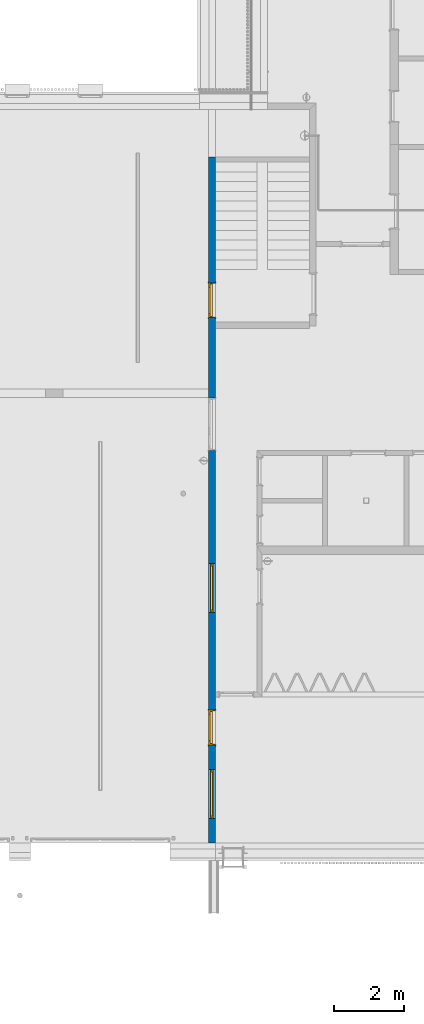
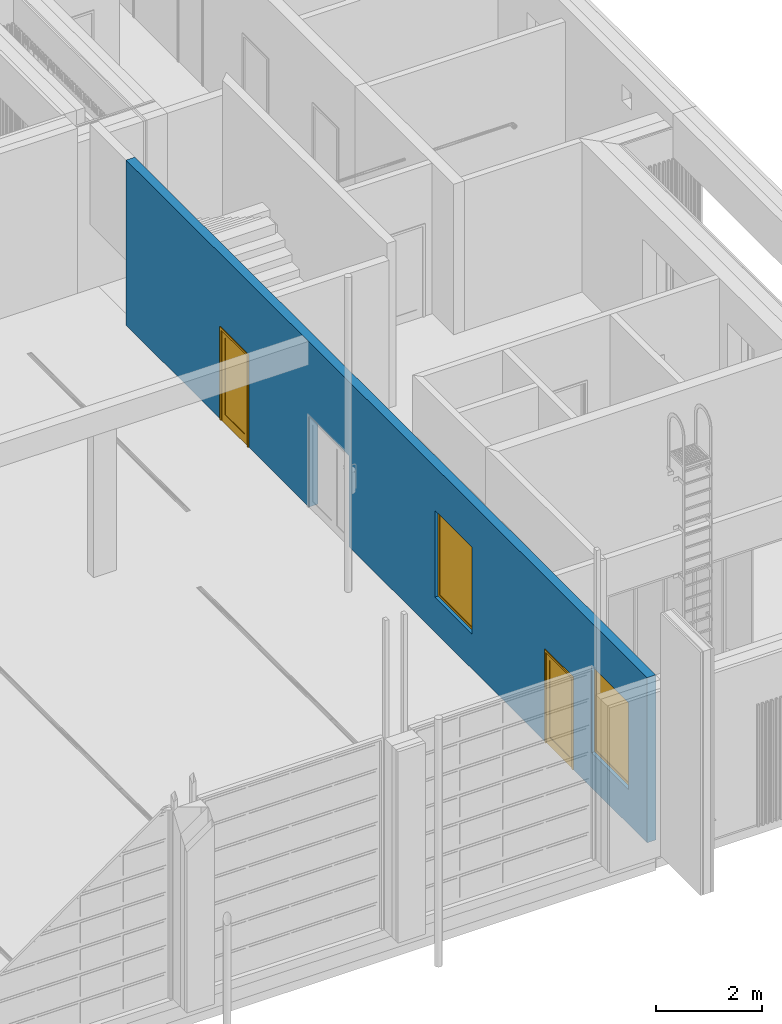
# One storey, part 12 of 112: 2 doors, 2 windows, 1 wall, 5 openings.
"""IFC2X3 building model written with IfcOpenShell, lengths in millimetres."""

from ifc_helpers import new_model, entity, si_unit, converted_unit, derived_unit, money_unit, direction, frame, origin_with_axes, origin_2d_with_axis, place, context, subcontext, project, spatial, polyline, rectangle, outline, extrude, open_shell, faceted_brep, surface_model, source, transform, mapped, material, layer, layer_set, layer_usage, type_object, element, fill, save


model = new_model("IFC2X3")

# Units and contexts
model_context = context("Model", 3, precision=0.01, world=origin_with_axes(), true_north=direction((0.0, 1.0)))
body_context = subcontext(model_context, "Body", "Model", "MODEL_VIEW")
ifc_project = project(units=[si_unit("LENGTHUNIT", "METRE", prefix="MILLI"), si_unit("AREAUNIT", "SQUARE_METRE"), si_unit("VOLUMEUNIT", "CUBIC_METRE"), converted_unit("PLANEANGLEUNIT", "DEGREE", entity("IfcPlaneAngleMeasure", 0.0174532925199), si_unit("PLANEANGLEUNIT", "RADIAN"), dimensions=[0, 0, 0, 0, 0, 0, 0]), si_unit("SOLIDANGLEUNIT", "STERADIAN"), money_unit("EUR"), converted_unit("TIMEUNIT", "Year", entity("IfcTimeMeasure", 31556926.0), si_unit("TIMEUNIT", "SECOND"), dimensions=[0, 0, 1, 0, 0, 0, 0]), si_unit("MASSUNIT", "GRAM", prefix="KILO"), si_unit("THERMODYNAMICTEMPERATUREUNIT", "DEGREE_CELSIUS"), si_unit("LUMINOUSINTENSITYUNIT", "LUMEN"), si_unit("ENERGYUNIT", "JOULE", prefix="MEGA"), derived_unit("THERMALCONDUCTANCEUNIT", [(si_unit("POWERUNIT", "WATT"), 1), (si_unit("LENGTHUNIT", "METRE"), -1), (si_unit("THERMODYNAMICTEMPERATUREUNIT", "KELVIN"), -1)]), derived_unit("SPECIFICHEATCAPACITYUNIT", [(si_unit("ENERGYUNIT", "JOULE"), 1), (si_unit("MASSUNIT", "GRAM", prefix="KILO"), -1), (si_unit("THERMODYNAMICTEMPERATUREUNIT", "KELVIN"), -1)]), derived_unit("MASSDENSITYUNIT", [(si_unit("MASSUNIT", "GRAM", prefix="KILO"), 1), (si_unit("VOLUMEUNIT", "CUBIC_METRE"), -1)])], contexts=[model_context])

# Site, building, storey
site_placement = place(None, origin_with_axes())
site = spatial("IfcSite", under=ifc_project, at=site_placement, Name="Politse- ja Piirivalveameti ning Päästeameti ühishoone", CompositionType="ELEMENT")
building_placement = place(site_placement, origin_with_axes())
building = spatial("IfcBuilding", under=site, at=building_placement, Name="Politse- ja Piirivalveameti ning Päästeameti ühishoone", CompositionType="ELEMENT")
storey_placement = place(building_placement, origin_with_axes())
storey = spatial("IfcBuildingStorey", under=building, at=storey_placement, Name="Esimene korrus", CompositionType="ELEMENT", Elevation=0.0)

# Wall, openings, windows, doors
ifc_material = material(Name="KON-05_Betoon Plokk - Konstuktsioon")
ifc_layer = layer(ifc_material, 190.0, ventilated="UNKNOWN")
ifc_layer_set = layer_set([ifc_layer], Name="SS-03_Sisesein 190")
ifc_layer_usage = layer_usage(ifc_layer_set, "AXIS2", "POSITIVE", -190.0)
wall_type = type_object("IfcWallType", Name="SS-03_Sisesein 190 190", PredefinedType="NOTDEFINED")
wall_placement = place(storey_placement, frame((60160.5519118, 19639.9520832, 0.0), z_axis=(0.0, 0.0, 1.0), x_axis=(0.0, -1.0, 0.0)))
wall = element("IfcWallStandardCase", 1, at=wall_placement, inside=storey, type_object=wall_type, material=ifc_layer_usage, Name="SS-03", context=body_context, shape_type="SweptSolid", body=[
    extrude(outline(polyline([(0.0, -190.0), (19639.9520832, -190.0), (19639.9520832, 0.0), (0.0, 0.0), (0.0, -190.0)])), origin_with_axes(), (0.0, 0.0, 1.0), 3800.0),
])
opening_1_placement = place(wall_placement, frame((12339.9387915, 0.0, 800.0), z_axis=(0.0, 0.0, 1.0), x_axis=(1.0, 0.0, 0.0)))
opening_1 = element("IfcOpeningElement", 2, at=opening_1_placement, cuts=wall, Name="TA-02", context=body_context, shape_type="SweptSolid", body=[
    extrude(rectangle(XDim=1400.0, YDim=2000.0, at=origin_2d_with_axis()), frame((0.0, -110.0, 1000.0), z_axis=(0.0, -1.0, 0.0), x_axis=(-1.0, 0.0, 0.0)), (0.0, 0.0, -1.0), 300.0),
    extrude(rectangle(XDim=1400.0, YDim=2000.0, at=origin_2d_with_axis()), frame((0.0, -110.0, 1000.0), z_axis=(0.0, 1.0, 0.0), x_axis=(-1.0, 0.0, 0.0)), (0.0, 0.0, -1.0), 270.0),
])
opening_2_placement = place(wall_placement, frame((18239.9387915, 0.0, 800.0), z_axis=(0.0, 0.0, 1.0), x_axis=(1.0, 0.0, 0.0)))
opening_2 = element("IfcOpeningElement", 3, at=opening_2_placement, cuts=wall, Name="TA-02", context=body_context, shape_type="SweptSolid", body=[
    extrude(rectangle(XDim=1400.0, YDim=2000.0, at=origin_2d_with_axis()), frame((0.0, -110.0, 1000.0), z_axis=(0.0, -1.0, 0.0), x_axis=(-1.0, 0.0, 0.0)), (0.0, 0.0, -1.0), 300.0),
    extrude(rectangle(XDim=1400.0, YDim=2000.0, at=origin_2d_with_axis()), frame((0.0, -110.0, 1000.0), z_axis=(0.0, 1.0, 0.0), x_axis=(-1.0, 0.0, 0.0)), (0.0, 0.0, -1.0), 270.0),
])
opening_3_placement = place(wall_placement, frame((7649.97516111, 0.0, 0.0), z_axis=(0.0, 0.0, 1.0), x_axis=(1.0, 0.0, 0.0)))
element("IfcOpeningElement", 4, at=opening_3_placement, cuts=wall, Name="TU-01-6", context=body_context, shape_type="SweptSolid", body=[
    extrude(rectangle(XDim=1500.0, YDim=2100.0, at=origin_2d_with_axis()), frame((0.0, 190.0, 1050.0), z_axis=(0.0, 1.0, 0.0), x_axis=(1.0, 0.0, 0.0)), (0.0, 0.0, -1.0), 570.0),
    extrude(rectangle(XDim=1574.0, YDim=2137.0, at=origin_2d_with_axis()), frame((0.0, 0.0, 1068.5), z_axis=(0.0, 1.0, 0.0), x_axis=(1.0, 0.0, 0.0)), (0.0, 0.0, 1.0), 190.0),
    extrude(rectangle(XDim=1574.0, YDim=2137.0, at=origin_2d_with_axis()), frame((0.0, -190.0, 1068.5), z_axis=(0.0, -1.0, 0.0), x_axis=(1.0, 0.0, 0.0)), (0.0, 0.0, 1.0), 190.0),
])
opening_4_placement = place(wall_placement, frame((16339.9387915, 0.0, 0.0), z_axis=(0.0, 0.0, 1.0), x_axis=(1.0, 0.0, 0.0)))
opening_4 = element("IfcOpeningElement", 5, at=opening_4_placement, cuts=wall, Name="TU-01-7", context=body_context, shape_type="SweptSolid", body=[
    extrude(rectangle(XDim=1000.0, YDim=2100.0, at=origin_2d_with_axis()), frame((0.0, 190.0, 1050.0), z_axis=(0.0, -1.0, 0.0), x_axis=(-1.0, 0.0, 0.0)), (0.0, 0.0, 1.0), 570.0),
    extrude(rectangle(XDim=1074.0, YDim=2137.0, at=origin_2d_with_axis()), frame((0.0, 0.0, 1068.5), z_axis=(0.0, -1.0, 0.0), x_axis=(-1.0, 0.0, 0.0)), (0.0, 0.0, -1.0), 190.0),
    extrude(rectangle(XDim=1074.0, YDim=2137.0, at=origin_2d_with_axis()), frame((0.0, -190.0, 1068.5), z_axis=(0.0, 1.0, 0.0), x_axis=(-1.0, 0.0, 0.0)), (0.0, 0.0, -1.0), 190.0),
])
opening_5_placement = place(wall_placement, frame((4099.64313689, 0.0, 0.0), z_axis=(0.0, 0.0, 1.0), x_axis=(1.0, 0.0, 0.0)))
opening_5 = element("IfcOpeningElement", 6, at=opening_5_placement, cuts=wall, Name="TU-01-7", context=body_context, shape_type="SweptSolid", body=[
    extrude(rectangle(XDim=1000.0, YDim=2100.0, at=origin_2d_with_axis()), frame((0.0, 190.0, 1050.0), z_axis=(0.0, -1.0, 0.0), x_axis=(-1.0, 0.0, 0.0)), (0.0, 0.0, 1.0), 570.0),
    extrude(rectangle(XDim=1074.0, YDim=2137.0, at=origin_2d_with_axis()), frame((0.0, 0.0, 1068.5), z_axis=(0.0, -1.0, 0.0), x_axis=(-1.0, 0.0, 0.0)), (0.0, 0.0, -1.0), 190.0),
    extrude(rectangle(XDim=1074.0, YDim=2137.0, at=origin_2d_with_axis()), frame((0.0, -190.0, 1068.5), z_axis=(0.0, 1.0, 0.0), x_axis=(-1.0, 0.0, 0.0)), (0.0, 0.0, -1.0), 190.0),
])
window_style = type_object("IfcWindowStyle", Name="Window 23", ConstructionType="NOTDEFINED", OperationType="SINGLE_PANEL", ParameterTakesPrecedence=False, Sizeable=False)
shared_shape_1 = source(origin_with_axes(), body_context, "Body", "SurfaceModel", [
    faceted_brep([(-675.0, 0.0, 1950.0), (-700.0, 0.0, 1950.0), (-700.0, -50.0, 1950.0), (-650.0, -50.0, 1950.0), (-650.0, -25.0, 1950.0), (-675.0, -25.0, 1950.0), (-675.0, 0.0, 50.0), (-700.0, 0.0, 50.0), (-700.0, -50.0, 50.0), (-650.0, -50.0, 50.0), (-650.0, -25.0, 50.0), (-675.0, -25.0, 50.0)], [[[0, 1, 2, 3, 4, 5]], [[6, 7, 1, 0]], [[1, 7, 8, 2]], [[2, 8, 9, 3]], [[4, 3, 9, 10]], [[10, 11, 5, 4]], [[5, 11, 6, 0]], [[11, 10, 9, 8, 7, 6]]]),
    faceted_brep([(650.0, -25.0, 1950.0), (650.0, -50.0, 1950.0), (700.0, -50.0, 1950.0), (700.0, 0.0, 1950.0), (675.0, 0.0, 1950.0), (675.0, -25.0, 1950.0), (650.0, -25.0, 50.0), (650.0, -50.0, 50.0), (700.0, -50.0, 50.0), (700.0, 0.0, 50.0), (675.0, 0.0, 50.0), (675.0, -25.0, 50.0)], [[[0, 1, 2, 3, 4, 5]], [[6, 7, 1, 0]], [[8, 2, 1, 7]], [[9, 3, 2, 8]], [[4, 3, 9, 10]], [[10, 11, 5, 4]], [[5, 11, 6, 0]], [[11, 10, 9, 8, 7, 6]]]),
    faceted_brep([(650.0, -25.0, 50.0), (650.0, -50.0, 50.0), (700.0, -50.0, 50.0), (700.0, 0.0, 50.0), (675.0, 0.0, 50.0), (675.0, -25.0, 50.0), (-650.0, -25.0, 50.0), (-650.0, -50.0, 50.0), (-700.0, -50.0, 50.0), (-700.0, -50.0, 0.0), (700.0, -50.0, 0.0), (700.0, 0.0, 0.0), (-675.0, 0.0, 25.0), (675.0, 0.0, 25.0), (-700.0, 0.0, 0.0), (-700.0, 0.0, 50.0), (-675.0, 0.0, 50.0), (675.0, -25.0, 25.0), (-675.0, -25.0, 25.0), (-675.0, -25.0, 50.0)], [[[0, 1, 2, 3, 4, 5]], [[6, 7, 1, 0]], [[8, 9, 10, 2, 1, 7]], [[11, 3, 2, 10]], [[12, 13, 4, 3, 11, 14, 15, 16]], [[13, 17, 5, 4]], [[5, 17, 18, 19, 6, 0]], [[19, 16, 15, 8, 7, 6]], [[15, 14, 9, 8]], [[14, 11, 10, 9]], [[12, 18, 17, 13]], [[19, 18, 12, 16]]]),
    faceted_brep([(-675.0, 0.0, 1950.0), (-700.0, 0.0, 1950.0), (-700.0, 0.0, 2000.0), (700.0, 0.0, 2000.0), (700.0, 0.0, 1950.0), (675.0, 0.0, 1950.0), (675.0, 0.0, 1975.0), (-675.0, 0.0, 1975.0), (-675.0, -25.0, 1950.0), (-650.0, -25.0, 1950.0), (-650.0, -50.0, 1950.0), (-700.0, -50.0, 1950.0), (-700.0, -50.0, 2000.0), (700.0, -50.0, 2000.0), (700.0, -50.0, 1950.0), (675.0, -25.0, 1950.0), (650.0, -50.0, 1950.0), (650.0, -25.0, 1950.0), (675.0, -25.0, 1975.0), (-675.0, -25.0, 1975.0)], [[[0, 1, 2, 3, 4, 5, 6, 7]], [[8, 9, 10, 11, 1, 0]], [[2, 1, 11, 12]], [[3, 2, 12, 13]], [[4, 3, 13, 14]], [[15, 5, 4, 14, 16, 17]], [[5, 15, 18, 6]], [[6, 18, 19, 7]], [[7, 19, 8, 0]], [[17, 9, 8, 19, 18, 15]], [[17, 16, 10, 9]], [[14, 13, 12, 11, 10, 16]]]),
    faceted_brep([(-625.0, -25.0, 1925.0), (-625.0, 25.0, 1925.0), (-675.0, 25.0, 1925.0), (-675.0, -25.0, 1925.0), (-625.0, -25.0, 75.0), (-625.0, 25.0, 75.0), (-675.0, 25.0, 75.0), (-675.0, -25.0, 75.0)], [[[0, 1, 2, 3]], [[4, 5, 1, 0]], [[1, 5, 6, 2]], [[3, 2, 6, 7]], [[0, 3, 7, 4]], [[7, 6, 5, 4]]]),
    faceted_brep([(625.0, -25.0, 75.0), (625.0, 25.0, 75.0), (675.0, 25.0, 75.0), (675.0, -25.0, 75.0), (625.0, -25.0, 1925.0), (625.0, 25.0, 1925.0), (675.0, 25.0, 1925.0), (675.0, -25.0, 1925.0)], [[[0, 1, 2, 3]], [[4, 5, 1, 0]], [[1, 5, 6, 2]], [[3, 2, 6, 7]], [[0, 3, 7, 4]], [[7, 6, 5, 4]]]),
    faceted_brep([(675.0, -25.0, 25.0), (675.0, 25.0, 25.0), (675.0, 25.0, 75.0), (675.0, -25.0, 75.0), (-675.0, -25.0, 25.0), (-675.0, 25.0, 25.0), (-675.0, 25.0, 75.0), (-625.0, 25.0, 75.0), (625.0, 25.0, 75.0), (625.0, -25.0, 75.0), (-625.0, -25.0, 75.0), (-675.0, -25.0, 75.0)], [[[0, 1, 2, 3]], [[4, 5, 1, 0]], [[1, 5, 6, 7, 8, 2]], [[3, 2, 8, 9]], [[0, 3, 9, 10, 11, 4]], [[11, 6, 5, 4]], [[10, 7, 6, 11]], [[9, 8, 7, 10]]]),
    faceted_brep([(-675.0, -25.0, 1975.0), (-675.0, 25.0, 1975.0), (-675.0, 25.0, 1925.0), (-675.0, -25.0, 1925.0), (675.0, -25.0, 1975.0), (675.0, 25.0, 1975.0), (675.0, 25.0, 1925.0), (625.0, 25.0, 1925.0), (-625.0, 25.0, 1925.0), (-625.0, -25.0, 1925.0), (625.0, -25.0, 1925.0), (675.0, -25.0, 1925.0)], [[[0, 1, 2, 3]], [[4, 5, 1, 0]], [[1, 5, 6, 7, 8, 2]], [[3, 2, 8, 9]], [[0, 3, 9, 10, 11, 4]], [[11, 6, 5, 4]], [[10, 7, 6, 11]], [[9, 8, 7, 10]]]),
    surface_model("IfcShellBasedSurfaceModel", [(-625.0, -10.0, 75.0), (625.0, -10.0, 75.0), (625.0, -10.0, 1925.0), (-625.0, -10.0, 1925.0)], [open_shell([[[0, 1, 2, 3]]])]),
    surface_model("IfcShellBasedSurfaceModel", [(-625.0, 10.0, 75.0), (-625.0, 10.0, 1925.0), (625.0, 10.0, 1925.0), (625.0, 10.0, 75.0)], [open_shell([[[0, 1, 2, 3]]])]),
])
window_1_placement = place(opening_1_placement, frame((700.0, 0.0, 0.0), z_axis=(0.0, 0.0, 1.0), x_axis=(-1.0, 0.0, 0.0)))
window_1 = element("IfcWindow", 7, at=window_1_placement, inside=storey, type_object=window_style, Name="TA-02", ObjectType="WINDOW", OverallHeight=2000.0, OverallWidth=1400.0, context=body_context, shape_type="MappedRepresentation", body=[
    mapped(shared_shape_1, transform((700.0, 110.0, 0.0))),
])
fill(opening_1, window_1)
window_2_placement = place(opening_2_placement, frame((700.0, 0.0, 0.0), z_axis=(0.0, 0.0, 1.0), x_axis=(-1.0, 0.0, 0.0)))
window_2 = element("IfcWindow", 8, at=window_2_placement, inside=storey, type_object=window_style, Name="TA-02", ObjectType="WINDOW", OverallHeight=2000.0, OverallWidth=1400.0, context=body_context, shape_type="MappedRepresentation", body=[
    mapped(shared_shape_1, transform((700.0, 110.0, 0.0))),
])
fill(opening_2, window_2)
door_style = type_object("IfcDoorStyle", Name="Door 23", ConstructionType="NOTDEFINED", OperationType="SINGLE_SWING_RIGHT", ParameterTakesPrecedence=False, Sizeable=False)
shared_shape_2 = source(origin_with_axes(), body_context, "Body", "SurfaceModel", [
    faceted_brep([(472.0, -40.0, 0.0), (472.0, -40.0, 12.0), (460.0, -40.0, 12.0), (460.0, -40.0, 0.0), (-472.0, -40.0, 0.0), (-472.0, -40.0, 12.0), (-460.0, -40.0, 12.0), (-460.0, -115.0, 12.0), (460.0, -115.0, 12.0), (460.0, -115.0, 0.0), (-460.0, -115.0, 0.0), (-460.0, -40.0, 0.0)], [[[0, 1, 2, 3]], [[4, 5, 1, 0]], [[1, 5, 6, 7, 8, 2]], [[3, 2, 8, 9]], [[0, 3, 9, 10, 11, 4]], [[11, 6, 5, 4]], [[10, 7, 6, 11]], [[9, 8, 7, 10]]]),
    faceted_brep([(-500.0, -115.0, 0.0), (-475.0, -115.0, 0.0), (-475.0, -190.0, 0.0), (-500.0, -190.0, 0.0), (-500.0, -115.0, 2100.0), (-475.0, -115.0, 2075.0), (-475.0, -190.0, 2075.0), (-500.0, -190.0, 2100.0)], [[[0, 1, 2, 3]], [[0, 4, 5, 1]], [[1, 5, 6, 2]], [[3, 2, 6, 7]], [[4, 0, 3, 7]], [[5, 4, 7, 6]]]),
    faceted_brep([(500.0, -115.0, 2100.0), (475.0, -115.0, 2075.0), (475.0, -190.0, 2075.0), (500.0, -190.0, 2100.0), (500.0, -115.0, 0.0), (475.0, -115.0, 0.0), (475.0, -190.0, 0.0), (500.0, -190.0, 0.0)], [[[0, 1, 2, 3]], [[0, 4, 5, 1]], [[1, 5, 6, 2]], [[3, 2, 6, 7]], [[4, 0, 3, 7]], [[5, 4, 7, 6]]]),
    faceted_brep([(-475.0, -115.0, 2075.0), (475.0, -115.0, 2075.0), (475.0, -190.0, 2075.0), (-475.0, -190.0, 2075.0), (-500.0, -115.0, 2100.0), (500.0, -115.0, 2100.0), (500.0, -190.0, 2100.0), (-500.0, -190.0, 2100.0)], [[[0, 1, 2, 3]], [[0, 4, 5, 1]], [[1, 5, 6, 2]], [[3, 2, 6, 7]], [[4, 0, 3, 7]], [[5, 4, 7, 6]]]),
    faceted_brep([(-537.0, -209.0, 0.0), (-537.0, -190.0, 0.0), (-487.0, -190.0, 0.0), (-487.0, -209.0, 0.0), (-537.0, -209.0, 2137.0), (-537.0, -190.0, 2137.0), (-487.0, -190.0, 2087.0), (-487.0, -209.0, 2087.0)], [[[0, 1, 2, 3]], [[4, 5, 1, 0]], [[1, 5, 6, 2]], [[3, 2, 6, 7]], [[0, 3, 7, 4]], [[7, 6, 5, 4]]]),
    faceted_brep([(537.0, -209.0, 2137.0), (537.0, -190.0, 2137.0), (487.0, -190.0, 2087.0), (487.0, -209.0, 2087.0), (537.0, -209.0, 0.0), (537.0, -190.0, 0.0), (487.0, -190.0, 0.0), (487.0, -209.0, 0.0)], [[[0, 1, 2, 3]], [[4, 5, 1, 0]], [[1, 5, 6, 2]], [[3, 2, 6, 7]], [[0, 3, 7, 4]], [[7, 6, 5, 4]]]),
    faceted_brep([(-537.0, -209.0, 2137.0), (-537.0, -190.0, 2137.0), (-487.0, -190.0, 2087.0), (-487.0, -209.0, 2087.0), (537.0, -209.0, 2137.0), (537.0, -190.0, 2137.0), (487.0, -190.0, 2087.0), (487.0, -209.0, 2087.0)], [[[0, 1, 2, 3]], [[4, 5, 1, 0]], [[1, 5, 6, 2]], [[3, 2, 6, 7]], [[0, 3, 7, 4]], [[7, 6, 5, 4]]]),
    faceted_brep([(-537.0, 19.0, 0.0), (-487.0, 19.0, 0.0), (-487.0, 0.0, 0.0), (-537.0, 0.0, 0.0), (-537.0, 19.0, 2137.0), (-487.0, 19.0, 2087.0), (-487.0, 0.0, 2087.0), (-537.0, 0.0, 2137.0)], [[[0, 1, 2, 3]], [[0, 4, 5, 1]], [[1, 5, 6, 2]], [[3, 2, 6, 7]], [[4, 0, 3, 7]], [[5, 4, 7, 6]]]),
    faceted_brep([(537.0, 19.0, 2137.0), (487.0, 19.0, 2087.0), (487.0, 0.0, 2087.0), (537.0, 0.0, 2137.0), (537.0, 19.0, 0.0), (487.0, 19.0, 0.0), (487.0, 0.0, 0.0), (537.0, 0.0, 0.0)], [[[0, 1, 2, 3]], [[0, 4, 5, 1]], [[1, 5, 6, 2]], [[3, 2, 6, 7]], [[4, 0, 3, 7]], [[5, 4, 7, 6]]]),
    faceted_brep([(-537.0, 19.0, 2137.0), (-487.0, 19.0, 2087.0), (-487.0, 0.0, 2087.0), (-537.0, 0.0, 2137.0), (537.0, 19.0, 2137.0), (487.0, 19.0, 2087.0), (487.0, 0.0, 2087.0), (537.0, 0.0, 2137.0)], [[[0, 1, 2, 3]], [[0, 4, 5, 1]], [[1, 5, 6, 2]], [[3, 2, 6, 7]], [[4, 0, 3, 7]], [[5, 4, 7, 6]]]),
    faceted_brep([(-460.0, -40.0, 0.0), (-460.0, -40.0, 2060.0), (-460.0, -115.0, 2060.0), (-460.0, -115.0, 0.0), (-472.0, -40.0, 2060.0), (-472.0, -40.0, 0.0), (-472.0, 0.0, 2060.0), (-500.0, 0.0, 2060.0), (-500.0, -115.0, 2060.0), (-500.0, -115.0, 0.0), (-500.0, 0.0, 0.0), (-472.0, 0.0, 0.0)], [[[0, 1, 2, 3]], [[4, 1, 0, 5]], [[4, 6, 7, 8, 2, 1]], [[3, 2, 8, 9]], [[5, 0, 3, 9, 10, 11]], [[6, 4, 5, 11]], [[6, 11, 10, 7]], [[10, 9, 8, 7]]]),
    faceted_brep([(472.0, -40.0, 2060.0), (460.0, -40.0, 2060.0), (460.0, -115.0, 2060.0), (500.0, -115.0, 2060.0), (500.0, 0.0, 2060.0), (472.0, 0.0, 2060.0), (472.0, -40.0, 0.0), (460.0, -40.0, 0.0), (460.0, -115.0, 0.0), (500.0, -115.0, 0.0), (500.0, 0.0, 0.0), (472.0, 0.0, 0.0)], [[[0, 1, 2, 3, 4, 5]], [[1, 0, 6, 7]], [[1, 7, 8, 2]], [[3, 2, 8, 9]], [[4, 3, 9, 10]], [[11, 5, 4, 10]], [[0, 5, 11, 6]], [[6, 11, 10, 9, 8, 7]]]),
    faceted_brep([(-472.0, 0.0, 2072.0), (-472.0, 0.0, 2060.0), (-500.0, 0.0, 2060.0), (-500.0, 0.0, 2100.0), (500.0, 0.0, 2100.0), (500.0, 0.0, 2060.0), (472.0, 0.0, 2060.0), (472.0, 0.0, 2072.0), (-472.0, -40.0, 2072.0), (-472.0, -40.0, 2060.0), (-460.0, -40.0, 2060.0), (-460.0, -115.0, 2060.0), (-500.0, -115.0, 2060.0), (-500.0, -115.0, 2100.0), (500.0, -115.0, 2100.0), (500.0, -115.0, 2060.0), (472.0, -40.0, 2060.0), (460.0, -115.0, 2060.0), (460.0, -40.0, 2060.0), (472.0, -40.0, 2072.0)], [[[0, 1, 2, 3, 4, 5, 6, 7]], [[1, 0, 8, 9]], [[9, 10, 11, 12, 2, 1]], [[2, 12, 13, 3]], [[3, 13, 14, 4]], [[4, 14, 15, 5]], [[16, 6, 5, 15, 17, 18]], [[7, 6, 16, 19]], [[0, 7, 19, 8]], [[16, 18, 10, 9, 8, 19]], [[10, 18, 17, 11]], [[17, 15, 14, 13, 12, 11]]]),
    faceted_brep([(472.0, 0.0, 200.0), (472.0, -40.0, 200.0), (372.0, -40.0, 200.0), (372.0, 0.0, 200.0), (472.0, 0.0, 1972.0), (472.0, -40.0, 1972.0), (372.0, -40.0, 1972.0), (372.0, 0.0, 1972.0)], [[[0, 1, 2, 3]], [[4, 5, 1, 0]], [[1, 5, 6, 2]], [[3, 2, 6, 7]], [[0, 3, 7, 4]], [[7, 6, 5, 4]]]),
    faceted_brep([(-472.0, 0.0, 200.0), (-472.0, -40.0, 200.0), (-472.0, -40.0, 1972.0), (-472.0, 0.0, 1972.0), (-372.0, 0.0, 200.0), (-372.0, -40.0, 200.0), (-372.0, -40.0, 1972.0), (-372.0, 0.0, 1972.0)], [[[0, 1, 2, 3]], [[4, 5, 1, 0]], [[1, 5, 6, 2]], [[3, 2, 6, 7]], [[0, 3, 7, 4]], [[7, 6, 5, 4]]]),
    faceted_brep([(472.0, 0.0, 0.0), (472.0, -40.0, 0.0), (-472.0, -40.0, 0.0), (-472.0, 0.0, 0.0), (472.0, 0.0, 200.0), (472.0, -40.0, 200.0), (372.0, -40.0, 200.0), (-372.0, -40.0, 200.0), (-472.0, -40.0, 200.0), (-472.0, 0.0, 200.0), (-372.0, 0.0, 200.0), (372.0, 0.0, 200.0)], [[[0, 1, 2, 3]], [[4, 5, 1, 0]], [[1, 5, 6, 7, 8, 2]], [[3, 2, 8, 9]], [[0, 3, 9, 10, 11, 4]], [[11, 6, 5, 4]], [[10, 7, 6, 11]], [[9, 8, 7, 10]]]),
    faceted_brep([(472.0, 0.0, 2072.0), (472.0, -40.0, 2072.0), (472.0, -40.0, 1972.0), (472.0, 0.0, 1972.0), (-472.0, 0.0, 2072.0), (-472.0, -40.0, 2072.0), (-472.0, -40.0, 1972.0), (-372.0, -40.0, 1972.0), (372.0, -40.0, 1972.0), (372.0, 0.0, 1972.0), (-372.0, 0.0, 1972.0), (-472.0, 0.0, 1972.0)], [[[0, 1, 2, 3]], [[4, 5, 1, 0]], [[1, 5, 6, 7, 8, 2]], [[3, 2, 8, 9]], [[0, 3, 9, 10, 11, 4]], [[11, 6, 5, 4]], [[10, 7, 6, 11]], [[9, 8, 7, 10]]]),
    surface_model("IfcShellBasedSurfaceModel", [(372.0, -14.0, 200.0), (-372.0, -14.0, 200.0), (-372.0, -14.0, 1972.0), (372.0, -14.0, 1972.0)], [open_shell([[[0, 1, 2, 3]]])]),
    surface_model("IfcShellBasedSurfaceModel", [(372.0, -26.0, 200.0), (372.0, -26.0, 1972.0), (-372.0, -26.0, 1972.0), (-372.0, -26.0, 200.0)], [open_shell([[[0, 1, 2, 3]]])]),
])
door_1_placement = place(opening_4_placement, frame((500.0, 0.0, 0.0), z_axis=(0.0, 0.0, 1.0), x_axis=(-1.0, 0.0, 0.0)))
door_1 = element("IfcDoor", 9, at=door_1_placement, inside=storey, type_object=door_style, Name="TU-01-7", ObjectType="DOOR", OverallHeight=2100.0, OverallWidth=1000.0, context=body_context, shape_type="MappedRepresentation", body=[
    mapped(shared_shape_2, transform((500.0, 190.0, 0.0))),
])
fill(opening_4, door_1)
door_2_placement = place(opening_5_placement, frame((500.0, 0.0, 0.0), z_axis=(0.0, 0.0, 1.0), x_axis=(-1.0, 0.0, 0.0)))
door_2 = element("IfcDoor", 10, at=door_2_placement, inside=storey, type_object=door_style, Name="TU-01-7", ObjectType="DOOR", OverallHeight=2100.0, OverallWidth=1000.0, context=body_context, shape_type="MappedRepresentation", body=[
    mapped(shared_shape_2, transform((500.0, 190.0, 0.0))),
])
fill(opening_5, door_2)

save(model, "model.ifc")
